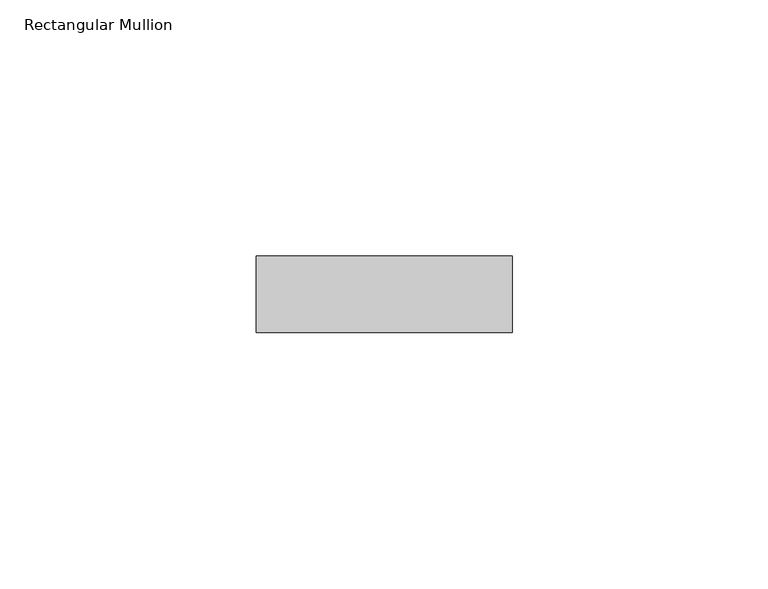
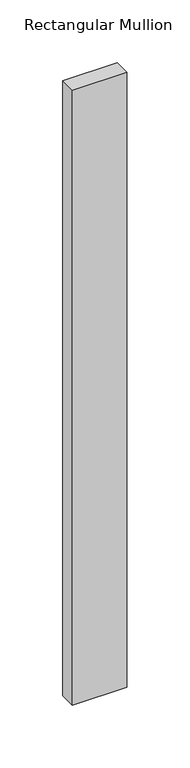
"""IFC4 building model written with IfcOpenShell, lengths in millimetres: member geometry, Rectangular Mullion : Ripa."""

from ifc_helpers import new_model, si_unit, frame, origin, place, context, project, spatial, polyline, outline, extrude, source, transform, mapped, element, save


def rectangular_mullion_e3e5c75d(model_context):
    return source(origin(), model_context, "Body", "SweptSolid", [
        extrude(outline(polyline([(-50.0, -75.0), (-50.0, -60.0), (0.0, -60.0), (0.0, -75.0), (-50.0, -75.0)])), frame((0.0, 0.0, -597.0547564), z_axis=(0.0, 0.0, 1.0), x_axis=(1.0, 0.0, 0.0)), (0.0, 0.0, 1.0), 597.0547564),
    ])


if __name__ == "__main__":
    model = new_model("IFC4")
    model_context = context("Model", 3, world=origin())
    ifc_project = project(units=[si_unit("LENGTHUNIT", "METRE", prefix="MILLI")], contexts=[model_context])
    site = spatial("IfcSite", under=ifc_project)
    building = spatial("IfcBuilding", under=site)
    placement = place(None, origin())
    rectangular_mullion_shape = rectangular_mullion_e3e5c75d(model_context)
    element("IfcMember", 1, ObjectType="Rectangular Mullion : Ripa", at=placement, inside=building, context=model_context, shape_type="MappedRepresentation", body=[
        mapped(rectangular_mullion_shape, transform((0.0, 0.0, 0.0), x_axis=(1.0, 0.0, 0.0), y_axis=(0.0, 1.0, 0.0), z_axis=(0.0, 0.0, 1.0))),
    ])
    save(model, "model.ifc")
